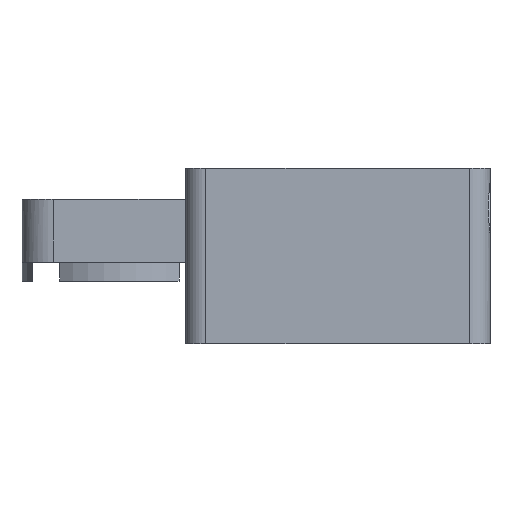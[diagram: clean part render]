
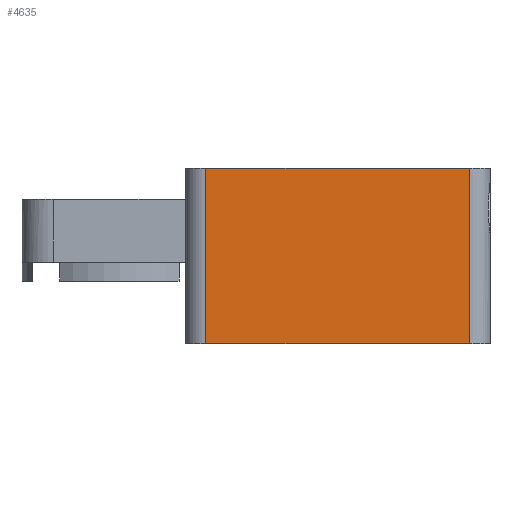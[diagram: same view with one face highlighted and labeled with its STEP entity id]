
A CAD part, front view. The second image highlights one B-rep face of the part: STEP entity #4635.
In plain terms, the highlighted planar face has unit normal (0, -1, 0).
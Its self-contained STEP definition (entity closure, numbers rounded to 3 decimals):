
#283 = PLANE('',#284);
#284 = AXIS2_PLACEMENT_3D('',#285,#286,#287);
#285 = CARTESIAN_POINT('',(-31.2,25.38,-4.8));
#286 = DIRECTION('',(0.,0.,1.));
#287 = DIRECTION('',(1.,0.,-0.));
#1220 = VERTEX_POINT('',#1221);
#1221 = CARTESIAN_POINT('',(-30.55,25.38,-4.8));
#1236 = CYLINDRICAL_SURFACE('',#1237,0.65);
#1237 = AXIS2_PLACEMENT_3D('',#1238,#1239,#1240);
#1238 = CARTESIAN_POINT('',(-30.55,26.03,-10.4));
#1239 = DIRECTION('',(0.,0.,1.));
#1240 = DIRECTION('',(-1.,-0.,0.));
#1248 = EDGE_CURVE('',#1220,#1249,#1251,.T.);
#1249 = VERTEX_POINT('',#1250);
#1250 = CARTESIAN_POINT('',(-22.15,25.38,-4.8));
#1251 = SURFACE_CURVE('',#1252,(#1256,#1263),.PCURVE_S1.);
#1252 = LINE('',#1253,#1254);
#1253 = CARTESIAN_POINT('',(-31.2,25.38,-4.8));
#1254 = VECTOR('',#1255,1.);
#1255 = DIRECTION('',(1.,0.,-0.));
#1256 = PCURVE('',#283,#1257);
#1257 = DEFINITIONAL_REPRESENTATION('',(#1258),#1262);
#1258 = LINE('',#1259,#1260);
#1259 = CARTESIAN_POINT('',(0.,0.));
#1260 = VECTOR('',#1261,1.);
#1261 = DIRECTION('',(1.,0.));
#1262 = ( GEOMETRIC_REPRESENTATION_CONTEXT(2) 
PARAMETRIC_REPRESENTATION_CONTEXT() REPRESENTATION_CONTEXT('2D SPACE',''
  ) );
#1263 = PCURVE('',#1264,#1269);
#1264 = PLANE('',#1265);
#1265 = AXIS2_PLACEMENT_3D('',#1266,#1267,#1268);
#1266 = CARTESIAN_POINT('',(-31.2,25.38,-10.4));
#1267 = DIRECTION('',(-0.,1.,0.));
#1268 = DIRECTION('',(0.,0.,1.));
#1269 = DEFINITIONAL_REPRESENTATION('',(#1270),#1274);
#1270 = LINE('',#1271,#1272);
#1271 = CARTESIAN_POINT('',(5.6,0.));
#1272 = VECTOR('',#1273,1.);
#1273 = DIRECTION('',(0.,1.));
#1274 = ( GEOMETRIC_REPRESENTATION_CONTEXT(2) 
PARAMETRIC_REPRESENTATION_CONTEXT() REPRESENTATION_CONTEXT('2D SPACE',''
  ) );
#1297 = CYLINDRICAL_SURFACE('',#1298,0.65);
#1298 = AXIS2_PLACEMENT_3D('',#1299,#1300,#1301);
#1299 = CARTESIAN_POINT('',(-22.15,26.03,-10.4));
#1300 = DIRECTION('',(0.,0.,1.));
#1301 = DIRECTION('',(1.,0.,-0.));
#3352 = PLANE('',#3353);
#3353 = AXIS2_PLACEMENT_3D('',#3354,#3355,#3356);
#3354 = CARTESIAN_POINT('',(-31.2,25.38,-10.4));
#3355 = DIRECTION('',(0.,0.,1.));
#3356 = DIRECTION('',(1.,0.,-0.));
#4465 = VERTEX_POINT('',#4466);
#4466 = CARTESIAN_POINT('',(-22.15,25.38,-10.4));
#4615 = EDGE_CURVE('',#4465,#1249,#4616,.T.);
#4616 = SURFACE_CURVE('',#4617,(#4621,#4628),.PCURVE_S1.);
#4617 = LINE('',#4618,#4619);
#4618 = CARTESIAN_POINT('',(-22.15,25.38,-10.4));
#4619 = VECTOR('',#4620,1.);
#4620 = DIRECTION('',(0.,0.,1.));
#4621 = PCURVE('',#1297,#4622);
#4622 = DEFINITIONAL_REPRESENTATION('',(#4623),#4627);
#4623 = LINE('',#4624,#4625);
#4624 = CARTESIAN_POINT('',(4.712,0.));
#4625 = VECTOR('',#4626,1.);
#4626 = DIRECTION('',(-0.,1.));
#4627 = ( GEOMETRIC_REPRESENTATION_CONTEXT(2) 
PARAMETRIC_REPRESENTATION_CONTEXT() REPRESENTATION_CONTEXT('2D SPACE',''
  ) );
#4628 = PCURVE('',#1264,#4629);
#4629 = DEFINITIONAL_REPRESENTATION('',(#4630),#4634);
#4630 = LINE('',#4631,#4632);
#4631 = CARTESIAN_POINT('',(0.,9.05));
#4632 = VECTOR('',#4633,1.);
#4633 = DIRECTION('',(1.,0.));
#4634 = ( GEOMETRIC_REPRESENTATION_CONTEXT(2) 
PARAMETRIC_REPRESENTATION_CONTEXT() REPRESENTATION_CONTEXT('2D SPACE',''
  ) );
#4635 = ADVANCED_FACE('',(#4636),#1264,.F.);
#4636 = FACE_BOUND('',#4637,.F.);
#4637 = EDGE_LOOP('',(#4638,#4661,#4682,#4683));
#4638 = ORIENTED_EDGE('',*,*,#4639,.F.);
#4639 = EDGE_CURVE('',#4640,#4465,#4642,.T.);
#4640 = VERTEX_POINT('',#4641);
#4641 = CARTESIAN_POINT('',(-30.55,25.38,-10.4));
#4642 = SURFACE_CURVE('',#4643,(#4647,#4654),.PCURVE_S1.);
#4643 = LINE('',#4644,#4645);
#4644 = CARTESIAN_POINT('',(-31.2,25.38,-10.4));
#4645 = VECTOR('',#4646,1.);
#4646 = DIRECTION('',(1.,0.,-0.));
#4647 = PCURVE('',#1264,#4648);
#4648 = DEFINITIONAL_REPRESENTATION('',(#4649),#4653);
#4649 = LINE('',#4650,#4651);
#4650 = CARTESIAN_POINT('',(0.,0.));
#4651 = VECTOR('',#4652,1.);
#4652 = DIRECTION('',(0.,1.));
#4653 = ( GEOMETRIC_REPRESENTATION_CONTEXT(2) 
PARAMETRIC_REPRESENTATION_CONTEXT() REPRESENTATION_CONTEXT('2D SPACE',''
  ) );
#4654 = PCURVE('',#3352,#4655);
#4655 = DEFINITIONAL_REPRESENTATION('',(#4656),#4660);
#4656 = LINE('',#4657,#4658);
#4657 = CARTESIAN_POINT('',(0.,0.));
#4658 = VECTOR('',#4659,1.);
#4659 = DIRECTION('',(1.,0.));
#4660 = ( GEOMETRIC_REPRESENTATION_CONTEXT(2) 
PARAMETRIC_REPRESENTATION_CONTEXT() REPRESENTATION_CONTEXT('2D SPACE',''
  ) );
#4661 = ORIENTED_EDGE('',*,*,#4662,.T.);
#4662 = EDGE_CURVE('',#4640,#1220,#4663,.T.);
#4663 = SURFACE_CURVE('',#4664,(#4668,#4675),.PCURVE_S1.);
#4664 = LINE('',#4665,#4666);
#4665 = CARTESIAN_POINT('',(-30.55,25.38,-10.4));
#4666 = VECTOR('',#4667,1.);
#4667 = DIRECTION('',(0.,0.,1.));
#4668 = PCURVE('',#1264,#4669);
#4669 = DEFINITIONAL_REPRESENTATION('',(#4670),#4674);
#4670 = LINE('',#4671,#4672);
#4671 = CARTESIAN_POINT('',(0.,0.65));
#4672 = VECTOR('',#4673,1.);
#4673 = DIRECTION('',(1.,0.));
#4674 = ( GEOMETRIC_REPRESENTATION_CONTEXT(2) 
PARAMETRIC_REPRESENTATION_CONTEXT() REPRESENTATION_CONTEXT('2D SPACE',''
  ) );
#4675 = PCURVE('',#1236,#4676);
#4676 = DEFINITIONAL_REPRESENTATION('',(#4677),#4681);
#4677 = LINE('',#4678,#4679);
#4678 = CARTESIAN_POINT('',(1.571,0.));
#4679 = VECTOR('',#4680,1.);
#4680 = DIRECTION('',(0.,1.));
#4681 = ( GEOMETRIC_REPRESENTATION_CONTEXT(2) 
PARAMETRIC_REPRESENTATION_CONTEXT() REPRESENTATION_CONTEXT('2D SPACE',''
  ) );
#4682 = ORIENTED_EDGE('',*,*,#1248,.T.);
#4683 = ORIENTED_EDGE('',*,*,#4615,.F.);
